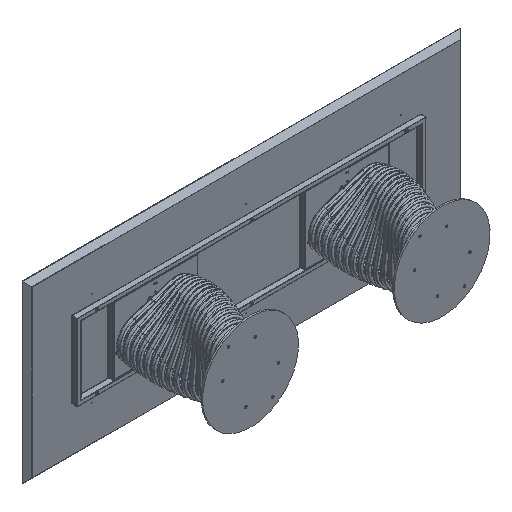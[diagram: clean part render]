
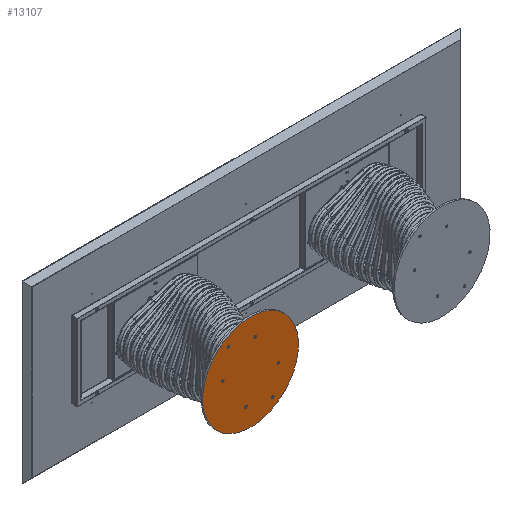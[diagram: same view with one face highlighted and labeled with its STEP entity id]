
A CAD part, isometric view. The second image highlights one B-rep face of the part: STEP entity #13107.
In plain terms, the highlighted planar face has unit normal (0, -1, 0).
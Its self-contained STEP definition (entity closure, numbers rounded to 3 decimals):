
#313 = DIRECTION ( 'NONE',  ( 0., 0., 1. ) ) ;
#365 = ORIENTED_EDGE ( 'NONE', *, *, #20558, .F. ) ;
#408 = AXIS2_PLACEMENT_3D ( 'NONE', #10707, #13917, #7147 ) ;
#520 = VERTEX_POINT ( 'NONE', #7519 ) ;
#556 = CIRCLE ( 'NONE', #6624, 350. ) ;
#632 = DIRECTION ( 'NONE',  ( 0., 0., -1. ) ) ;
#1010 = CIRCLE ( 'NONE', #9742, 8.65 ) ;
#1277 = CIRCLE ( 'NONE', #19450, 8.65 ) ;
#1449 = DIRECTION ( 'NONE',  ( 0., -1., 0. ) ) ;
#1608 = VERTEX_POINT ( 'NONE', #14834 ) ;
#1646 = PLANE ( 'NONE',  #10421 ) ;
#1678 = DIRECTION ( 'NONE',  ( 0., 0., -1. ) ) ;
#1938 = AXIS2_PLACEMENT_3D ( 'NONE', #10478, #1449, #22945 ) ;
#2133 = AXIS2_PLACEMENT_3D ( 'NONE', #3533, #10767, #16111 ) ;
#2250 = AXIS2_PLACEMENT_3D ( 'NONE', #19236, #3006, #632 ) ;
#3006 = DIRECTION ( 'NONE',  ( 0., -1., 0. ) ) ;
#3116 = ORIENTED_EDGE ( 'NONE', *, *, #6715, .F. ) ;
#3234 = DIRECTION ( 'NONE',  ( 0., -1., 0. ) ) ;
#3297 = CARTESIAN_POINT ( 'NONE',  ( 290., 0., 0. ) ) ;
#3305 = EDGE_LOOP ( 'NONE', ( #16385, #12944 ) ) ;
#3533 = CARTESIAN_POINT ( 'NONE',  ( 150., 0., -142.5 ) ) ;
#3534 = CARTESIAN_POINT ( 'NONE',  ( 0., 0., -350. ) ) ;
#3736 = CIRCLE ( 'NONE', #20774, 8.65 ) ;
#3832 = DIRECTION ( 'NONE',  ( 0., 0., -1. ) ) ;
#3936 = DIRECTION ( 'NONE',  ( 0., -1., 0. ) ) ;
#4035 = EDGE_CURVE ( 'NONE', #1608, #16556, #10182, .T. ) ;
#4104 = EDGE_LOOP ( 'NONE', ( #14889, #21417 ) ) ;
#4909 = EDGE_LOOP ( 'NONE', ( #20844, #13672 ) ) ;
#4913 = AXIS2_PLACEMENT_3D ( 'NONE', #13905, #3234, #1678 ) ;
#4949 = VERTEX_POINT ( 'NONE', #18212 ) ;
#4983 = FACE_BOUND ( 'NONE', #19430, .T. ) ;
#5294 = ORIENTED_EDGE ( 'NONE', *, *, #14503, .F. ) ;
#5939 = VERTEX_POINT ( 'NONE', #6309 ) ;
#5997 = EDGE_LOOP ( 'NONE', ( #5294, #16546 ) ) ;
#6195 = CARTESIAN_POINT ( 'NONE',  ( 150., 0., 142.5 ) ) ;
#6309 = CARTESIAN_POINT ( 'NONE',  ( -150., 0., -133.85 ) ) ;
#6491 = CARTESIAN_POINT ( 'NONE',  ( 150., 0., -151.15 ) ) ;
#6524 = DIRECTION ( 'NONE',  ( 0., 0., -1. ) ) ;
#6624 = AXIS2_PLACEMENT_3D ( 'NONE', #13405, #11391, #13282 ) ;
#6715 = EDGE_CURVE ( 'NONE', #19348, #19952, #17094, .T. ) ;
#7006 = EDGE_CURVE ( 'NONE', #20419, #4949, #8778, .T. ) ;
#7057 = EDGE_CURVE ( 'NONE', #19952, #19348, #12531, .T. ) ;
#7147 = DIRECTION ( 'NONE',  ( 0., 0., -1. ) ) ;
#7519 = CARTESIAN_POINT ( 'NONE',  ( -150., 0., -151.15 ) ) ;
#7560 = ORIENTED_EDGE ( 'NONE', *, *, #22871, .F. ) ;
#7682 = CARTESIAN_POINT ( 'NONE',  ( 0., 0., 0. ) ) ;
#7737 = ORIENTED_EDGE ( 'NONE', *, *, #7057, .F. ) ;
#7852 = CARTESIAN_POINT ( 'NONE',  ( 0., 0., 350. ) ) ;
#7974 = VERTEX_POINT ( 'NONE', #14202 ) ;
#8778 = CIRCLE ( 'NONE', #408, 8.65 ) ;
#8884 = DIRECTION ( 'NONE',  ( 0., -1., 0. ) ) ;
#9209 = CARTESIAN_POINT ( 'NONE',  ( -150., 0., 142.5 ) ) ;
#9306 = CARTESIAN_POINT ( 'NONE',  ( 150., 0., -142.5 ) ) ;
#9516 = CARTESIAN_POINT ( 'NONE',  ( 150., 0., 142.5 ) ) ;
#9742 = AXIS2_PLACEMENT_3D ( 'NONE', #6195, #20295, #15209 ) ;
#10010 = VERTEX_POINT ( 'NONE', #3534 ) ;
#10182 = CIRCLE ( 'NONE', #23430, 8.65 ) ;
#10418 = CIRCLE ( 'NONE', #11930, 8.65 ) ;
#10421 = AXIS2_PLACEMENT_3D ( 'NONE', #17888, #15671, #21456 ) ;
#10478 = CARTESIAN_POINT ( 'NONE',  ( -150., 0., 142.5 ) ) ;
#10707 = CARTESIAN_POINT ( 'NONE',  ( 290., 0., 0. ) ) ;
#10718 = DIRECTION ( 'NONE',  ( 0., -1., 0. ) ) ;
#10767 = DIRECTION ( 'NONE',  ( 0., -1., 0. ) ) ;
#10780 = FACE_OUTER_BOUND ( 'NONE', #4104, .T. ) ;
#11391 = DIRECTION ( 'NONE',  ( 0., 1., 0. ) ) ;
#11514 = EDGE_CURVE ( 'NONE', #520, #5939, #1277, .T. ) ;
#11883 = EDGE_LOOP ( 'NONE', ( #365, #14029 ) ) ;
#11930 = AXIS2_PLACEMENT_3D ( 'NONE', #3297, #8884, #14557 ) ;
#12213 = FACE_BOUND ( 'NONE', #16573, .T. ) ;
#12261 = ORIENTED_EDGE ( 'NONE', *, *, #20691, .F. ) ;
#12378 = CARTESIAN_POINT ( 'NONE',  ( 290., 0., -8.65 ) ) ;
#12531 = CIRCLE ( 'NONE', #1938, 8.65 ) ;
#12944 = ORIENTED_EDGE ( 'NONE', *, *, #16513, .F. ) ;
#12973 = DIRECTION ( 'NONE',  ( 0., 0., -1. ) ) ;
#13107 = ADVANCED_FACE ( 'NONE', ( #4983, #18004, #13875, #19667, #19440, #12213, #10780 ), #1646, .F. ) ;
#13282 = DIRECTION ( 'NONE',  ( 0., 0., 1. ) ) ;
#13405 = CARTESIAN_POINT ( 'NONE',  ( 0., 0., 0. ) ) ;
#13672 = ORIENTED_EDGE ( 'NONE', *, *, #22765, .F. ) ;
#13875 = FACE_BOUND ( 'NONE', #11883, .T. ) ;
#13905 = CARTESIAN_POINT ( 'NONE',  ( -290., 0., 0. ) ) ;
#13917 = DIRECTION ( 'NONE',  ( 0., -1., 0. ) ) ;
#13973 = CIRCLE ( 'NONE', #2250, 8.65 ) ;
#14029 = ORIENTED_EDGE ( 'NONE', *, *, #17731, .F. ) ;
#14184 = CARTESIAN_POINT ( 'NONE',  ( -150., 0., 151.15 ) ) ;
#14197 = AXIS2_PLACEMENT_3D ( 'NONE', #7682, #16815, #313 ) ;
#14202 = CARTESIAN_POINT ( 'NONE',  ( -290., 0., -8.65 ) ) ;
#14471 = VERTEX_POINT ( 'NONE', #20540 ) ;
#14503 = EDGE_CURVE ( 'NONE', #16556, #1608, #1010, .T. ) ;
#14557 = DIRECTION ( 'NONE',  ( 0., 0., -1. ) ) ;
#14671 = CIRCLE ( 'NONE', #17692, 8.65 ) ;
#14834 = CARTESIAN_POINT ( 'NONE',  ( 150., 0., 151.15 ) ) ;
#14889 = ORIENTED_EDGE ( 'NONE', *, *, #16185, .F. ) ;
#15080 = DIRECTION ( 'NONE',  ( 0., 0., -1. ) ) ;
#15209 = DIRECTION ( 'NONE',  ( 0., 0., -1. ) ) ;
#15546 = CARTESIAN_POINT ( 'NONE',  ( -150., 0., -142.5 ) ) ;
#15671 = DIRECTION ( 'NONE',  ( 0., 1., 0. ) ) ;
#16111 = DIRECTION ( 'NONE',  ( 0., 0., -1. ) ) ;
#16185 = EDGE_CURVE ( 'NONE', #10010, #23151, #556, .T. ) ;
#16385 = ORIENTED_EDGE ( 'NONE', *, *, #7006, .F. ) ;
#16513 = EDGE_CURVE ( 'NONE', #4949, #20419, #10418, .T. ) ;
#16546 = ORIENTED_EDGE ( 'NONE', *, *, #4035, .F. ) ;
#16556 = VERTEX_POINT ( 'NONE', #23341 ) ;
#16573 = EDGE_LOOP ( 'NONE', ( #3116, #7737 ) ) ;
#16594 = EDGE_CURVE ( 'NONE', #23151, #10010, #16853, .T. ) ;
#16640 = CIRCLE ( 'NONE', #4913, 8.65 ) ;
#16662 = DIRECTION ( 'NONE',  ( 0., 0., -1. ) ) ;
#16815 = DIRECTION ( 'NONE',  ( 0., 1., 0. ) ) ;
#16853 = CIRCLE ( 'NONE', #14197, 350. ) ;
#16972 = DIRECTION ( 'NONE',  ( 0., -1., 0. ) ) ;
#17094 = CIRCLE ( 'NONE', #20100, 8.65 ) ;
#17289 = CIRCLE ( 'NONE', #2133, 8.65 ) ;
#17692 = AXIS2_PLACEMENT_3D ( 'NONE', #22460, #20430, #12973 ) ;
#17731 = EDGE_CURVE ( 'NONE', #14471, #18737, #17289, .T. ) ;
#17888 = CARTESIAN_POINT ( 'NONE',  ( 0., 0., 0. ) ) ;
#18004 = FACE_BOUND ( 'NONE', #4909, .T. ) ;
#18212 = CARTESIAN_POINT ( 'NONE',  ( 290., 0., 8.65 ) ) ;
#18737 = VERTEX_POINT ( 'NONE', #6491 ) ;
#19087 = CARTESIAN_POINT ( 'NONE',  ( -150., 0., 133.85 ) ) ;
#19236 = CARTESIAN_POINT ( 'NONE',  ( -150., 0., -142.5 ) ) ;
#19348 = VERTEX_POINT ( 'NONE', #19087 ) ;
#19430 = EDGE_LOOP ( 'NONE', ( #12261, #7560 ) ) ;
#19440 = FACE_BOUND ( 'NONE', #5997, .T. ) ;
#19450 = AXIS2_PLACEMENT_3D ( 'NONE', #15546, #16972, #6524 ) ;
#19667 = FACE_BOUND ( 'NONE', #3305, .T. ) ;
#19952 = VERTEX_POINT ( 'NONE', #14184 ) ;
#20100 = AXIS2_PLACEMENT_3D ( 'NONE', #9209, #21994, #16662 ) ;
#20244 = VERTEX_POINT ( 'NONE', #20458 ) ;
#20295 = DIRECTION ( 'NONE',  ( 0., -1., 0. ) ) ;
#20419 = VERTEX_POINT ( 'NONE', #12378 ) ;
#20430 = DIRECTION ( 'NONE',  ( 0., -1., 0. ) ) ;
#20458 = CARTESIAN_POINT ( 'NONE',  ( -290., 0., 8.65 ) ) ;
#20540 = CARTESIAN_POINT ( 'NONE',  ( 150., 0., -133.85 ) ) ;
#20558 = EDGE_CURVE ( 'NONE', #18737, #14471, #3736, .T. ) ;
#20691 = EDGE_CURVE ( 'NONE', #7974, #20244, #14671, .T. ) ;
#20774 = AXIS2_PLACEMENT_3D ( 'NONE', #9306, #10718, #3832 ) ;
#20844 = ORIENTED_EDGE ( 'NONE', *, *, #11514, .F. ) ;
#21417 = ORIENTED_EDGE ( 'NONE', *, *, #16594, .F. ) ;
#21456 = DIRECTION ( 'NONE',  ( 0., 0., 1. ) ) ;
#21994 = DIRECTION ( 'NONE',  ( 0., -1., 0. ) ) ;
#22460 = CARTESIAN_POINT ( 'NONE',  ( -290., 0., 0. ) ) ;
#22765 = EDGE_CURVE ( 'NONE', #5939, #520, #13973, .T. ) ;
#22871 = EDGE_CURVE ( 'NONE', #20244, #7974, #16640, .T. ) ;
#22945 = DIRECTION ( 'NONE',  ( 0., 0., -1. ) ) ;
#23151 = VERTEX_POINT ( 'NONE', #7852 ) ;
#23341 = CARTESIAN_POINT ( 'NONE',  ( 150., 0., 133.85 ) ) ;
#23430 = AXIS2_PLACEMENT_3D ( 'NONE', #9516, #3936, #15080 ) ;
